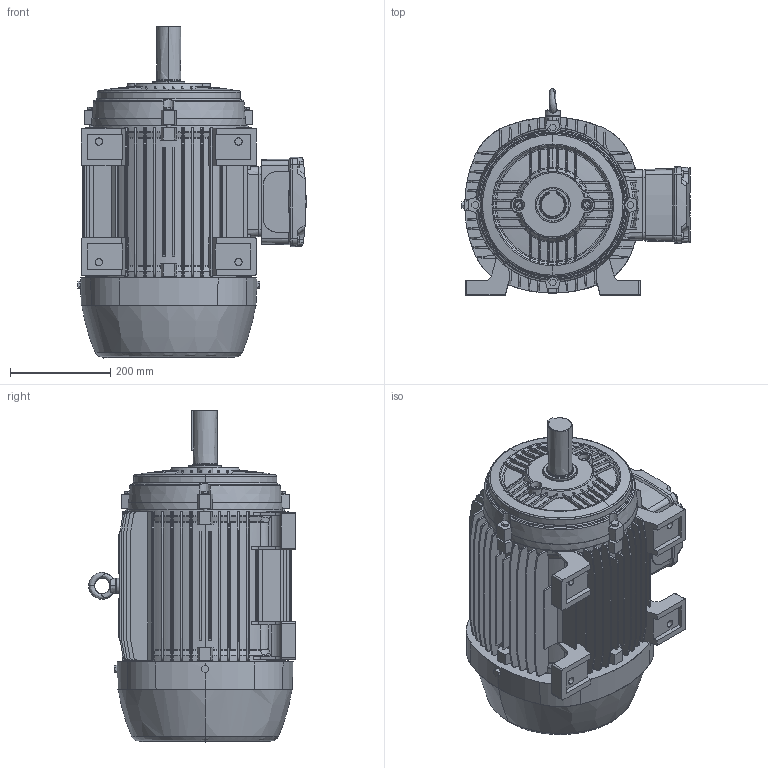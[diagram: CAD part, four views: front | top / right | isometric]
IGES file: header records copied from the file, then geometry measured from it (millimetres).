
Start section: SolidWorks IGES file using analytic representation for surfaces
Global section: file name: Y:\IEC\W21_GENERAL_PURPOSE\12_FRAME_180M\STANDARD\IGS\180M_RIGHT.IGS; native system: SolidWorks 2006 by SolidWorks Corporation; preprocessor: SolidWorks 2006 by SolidWorks Corporation; author: ricardov; date: 070628.133403; units: millimetre
Bounding box: 456 x 412.48 x 663.6 mm (x, y, z)
Surface area: 1629481.5 mm2 (no closed solid volume)
Topology: 0 solids, 0 shells, 1839 faces, 21219 edges, 21151 vertices
Faces by surface type: bspline 1181, revolution 658
